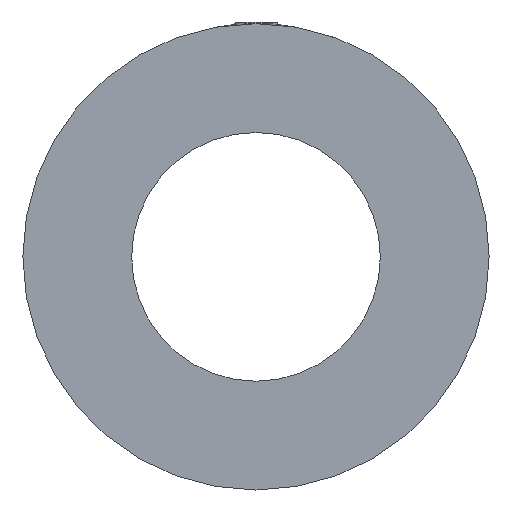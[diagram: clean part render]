
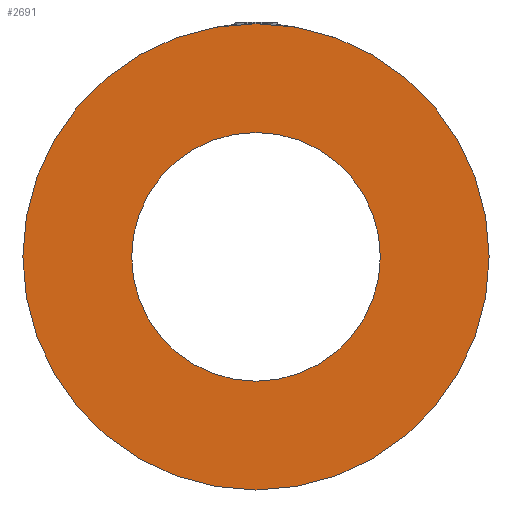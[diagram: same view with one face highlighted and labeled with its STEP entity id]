
A CAD part, left-side view. The second image highlights one B-rep face of the part: STEP entity #2691.
In plain terms, the highlighted planar face has unit normal (-1, 0, 0).
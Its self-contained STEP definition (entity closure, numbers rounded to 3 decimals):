
#201 = AXIS2_PLACEMENT_3D ( 'NONE', #2289, #2282, #2274 ) ;
#209 = CARTESIAN_POINT ( 'NONE',  ( 0., 0., 0. ) ) ;
#227 = CARTESIAN_POINT ( 'NONE',  ( 0., 0., -69. ) ) ;
#237 = DIRECTION ( 'NONE',  ( 0., 0., 1. ) ) ;
#315 = DIRECTION ( 'NONE',  ( -1., 0., 0. ) ) ;
#539 = AXIS2_PLACEMENT_3D ( 'NONE', #1949, #1939, #1930 ) ;
#540 = AXIS2_PLACEMENT_3D ( 'NONE', #209, #315, #237 ) ;
#557 = CARTESIAN_POINT ( 'NONE',  ( 0., 0., 36.8 ) ) ;
#614 = DIRECTION ( 'NONE',  ( 0., 0., -1. ) ) ;
#618 = DIRECTION ( 'NONE',  ( 1., 0., 0. ) ) ;
#621 = CARTESIAN_POINT ( 'NONE',  ( 0., 36.8, 0. ) ) ;
#622 = AXIS2_PLACEMENT_3D ( 'NONE', #2388, #2382, #2377 ) ;
#659 = PLANE ( 'NONE',  #1905 ) ;
#893 = EDGE_LOOP ( 'NONE', ( #1543, #1754 ) ) ;
#912 = CIRCLE ( 'NONE', #201, 69. ) ;
#1038 = CIRCLE ( 'NONE', #539, 36.8 ) ;
#1130 = VERTEX_POINT ( 'NONE', #227 ) ;
#1186 = FACE_OUTER_BOUND ( 'NONE', #2370, .T. ) ;
#1206 = FACE_BOUND ( 'NONE', #893, .T. ) ;
#1263 = CIRCLE ( 'NONE', #540, 36.8 ) ;
#1502 = EDGE_CURVE ( 'NONE', #1547, #1130, #1803, .T. ) ;
#1543 = ORIENTED_EDGE ( 'NONE', *, *, #2553, .F. ) ;
#1547 = VERTEX_POINT ( 'NONE', #2238 ) ;
#1669 = CARTESIAN_POINT ( 'NONE',  ( 0., 0., -36.8 ) ) ;
#1750 = ORIENTED_EDGE ( 'NONE', *, *, #1502, .T. ) ;
#1754 = ORIENTED_EDGE ( 'NONE', *, *, #1758, .F. ) ;
#1758 = EDGE_CURVE ( 'NONE', #1970, #2324, #1038, .T. ) ;
#1791 = ORIENTED_EDGE ( 'NONE', *, *, #2577, .T. ) ;
#1803 = CIRCLE ( 'NONE', #622, 69. ) ;
#1905 = AXIS2_PLACEMENT_3D ( 'NONE', #621, #618, #614 ) ;
#1930 = DIRECTION ( 'NONE',  ( 0., 0., 1. ) ) ;
#1939 = DIRECTION ( 'NONE',  ( -1., 0., 0. ) ) ;
#1949 = CARTESIAN_POINT ( 'NONE',  ( 0., 0., 0. ) ) ;
#1970 = VERTEX_POINT ( 'NONE', #1669 ) ;
#2238 = CARTESIAN_POINT ( 'NONE',  ( 0., 0., 69. ) ) ;
#2274 = DIRECTION ( 'NONE',  ( 0., 0., 1. ) ) ;
#2282 = DIRECTION ( 'NONE',  ( -1., 0., 0. ) ) ;
#2289 = CARTESIAN_POINT ( 'NONE',  ( 0., 0., 0. ) ) ;
#2324 = VERTEX_POINT ( 'NONE', #557 ) ;
#2370 = EDGE_LOOP ( 'NONE', ( #1750, #1791 ) ) ;
#2377 = DIRECTION ( 'NONE',  ( 0., 0., 1. ) ) ;
#2382 = DIRECTION ( 'NONE',  ( -1., 0., 0. ) ) ;
#2388 = CARTESIAN_POINT ( 'NONE',  ( 0., 0., 0. ) ) ;
#2553 = EDGE_CURVE ( 'NONE', #2324, #1970, #1263, .T. ) ;
#2577 = EDGE_CURVE ( 'NONE', #1130, #1547, #912, .T. ) ;
#2691 = ADVANCED_FACE ( 'NONE', ( #1206, #1186 ), #659, .F. ) ;
